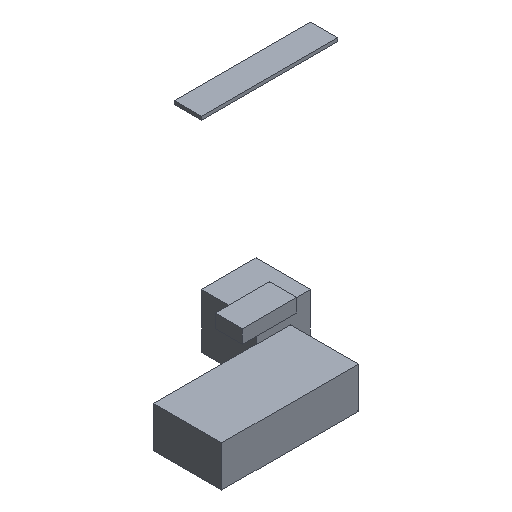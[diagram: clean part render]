
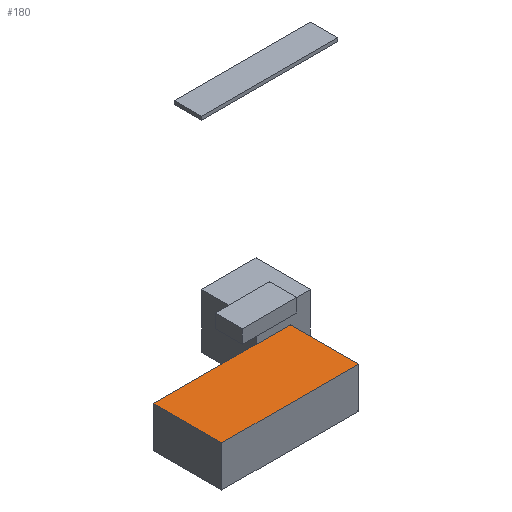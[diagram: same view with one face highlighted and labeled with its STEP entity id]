
A CAD part, isometric view. The second image highlights one B-rep face of the part: STEP entity #180.
In plain terms, the highlighted planar face has unit normal (0, 0, 1).
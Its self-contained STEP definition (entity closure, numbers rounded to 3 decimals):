
#108=FACE_OUTER_BOUND($,#132,.T.);
#132=EDGE_LOOP($,(#204,#205,#206,#207));
#156=PLANE($,#573);
#180=ADVANCED_FACE($,(#108),#156,.T.);
#204=ORIENTED_EDGE($,*,*,#300,.T.);
#205=ORIENTED_EDGE($,*,*,#301,.T.);
#206=ORIENTED_EDGE($,*,*,#302,.T.);
#207=ORIENTED_EDGE($,*,*,#303,.T.);
#300=EDGE_CURVE($,#540,#541,#492,.T.);
#301=EDGE_CURVE($,#541,#542,#493,.T.);
#302=EDGE_CURVE($,#542,#543,#494,.T.);
#303=EDGE_CURVE($,#543,#540,#495,.T.);
#348=DIRECTION($,(-1.,0.,0.));
#349=DIRECTION($,(0.,-1.,0.));
#350=DIRECTION($,(1.,0.,0.));
#351=DIRECTION($,(0.,1.,0.));
#352=DIRECTION($,(0.,0.,1.));
#353=DIRECTION($,(1.,0.,0.));
#444=VECTOR($,#348,10.);
#445=VECTOR($,#349,5.);
#446=VECTOR($,#350,10.);
#447=VECTOR($,#351,5.);
#492=LINE($,#598,#444);
#493=LINE($,#599,#445);
#494=LINE($,#600,#446);
#495=LINE($,#601,#447);
#540=VERTEX_POINT($,#598);
#541=VERTEX_POINT($,#599);
#542=VERTEX_POINT($,#600);
#543=VERTEX_POINT($,#601);
#573=AXIS2_PLACEMENT_3D($,#602,#352,#353);
#598=CARTESIAN_POINT($,(5.,2.5,0.));
#599=CARTESIAN_POINT($,(-5.,2.5,0.));
#600=CARTESIAN_POINT($,(-5.,-2.5,0.));
#601=CARTESIAN_POINT($,(5.,-2.5,0.));
#602=CARTESIAN_POINT($,(0.,0.,0.));
